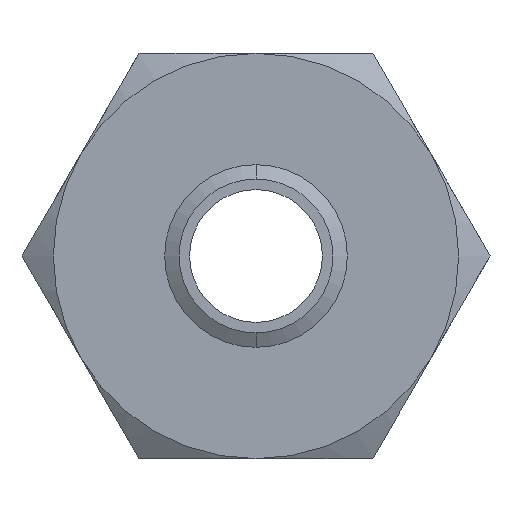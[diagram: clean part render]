
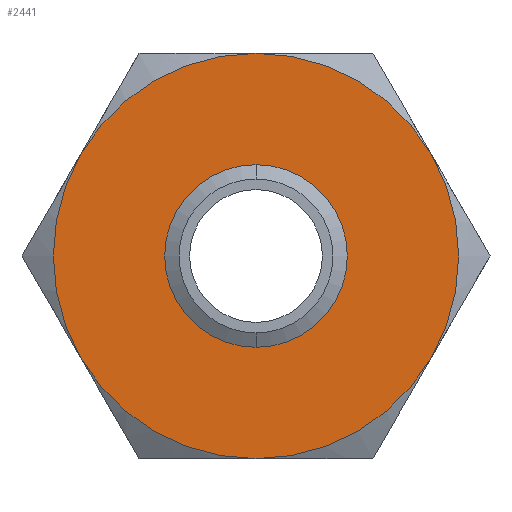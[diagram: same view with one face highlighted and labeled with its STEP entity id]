
A CAD part, front view. The second image highlights one B-rep face of the part: STEP entity #2441.
In plain terms, the highlighted planar face has unit normal (0, -1, 0).
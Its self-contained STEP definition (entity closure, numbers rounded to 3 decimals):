
#3 = EDGE_CURVE ( 'NONE', #2443, #2446, #1084, .T. ) ;
#596 = CARTESIAN_POINT ( 'NONE',  ( 0., 0., 0. ) ) ;
#597 = AXIS2_PLACEMENT_3D ( 'NONE', #596, #659, #658 ) ;
#598 = CIRCLE ( 'NONE', #597, 77.5 ) ;
#600 = CARTESIAN_POINT ( 'NONE',  ( 67.117, 0., 38.75 ) ) ;
#628 = CARTESIAN_POINT ( 'NONE',  ( 67.117, 0., -38.75 ) ) ;
#629 = DIRECTION ( 'NONE',  ( 0., 0., 1. ) ) ;
#630 = DIRECTION ( 'NONE',  ( 0., 1., 0. ) ) ;
#631 = CARTESIAN_POINT ( 'NONE',  ( 0., 0., 0. ) ) ;
#632 = AXIS2_PLACEMENT_3D ( 'NONE', #631, #630, #629 ) ;
#633 = CIRCLE ( 'NONE', #632, 77.5 ) ;
#634 = CARTESIAN_POINT ( 'NONE',  ( -67.117, 0., -38.75 ) ) ;
#639 = CARTESIAN_POINT ( 'NONE',  ( 0., 0., -77.5 ) ) ;
#640 = DIRECTION ( 'NONE',  ( 0., 0., 1. ) ) ;
#641 = DIRECTION ( 'NONE',  ( 0., 1., 0. ) ) ;
#642 = AXIS2_PLACEMENT_3D ( 'NONE', #647, #641, #640 ) ;
#643 = CIRCLE ( 'NONE', #642, 77.5 ) ;
#644 = DIRECTION ( 'NONE',  ( 0., 0., 1. ) ) ;
#645 = DIRECTION ( 'NONE',  ( 0., 1., 0. ) ) ;
#646 = CARTESIAN_POINT ( 'NONE',  ( 44.745, 0., -77.5 ) ) ;
#647 = CARTESIAN_POINT ( 'NONE',  ( 0., 0., 0. ) ) ;
#648 = AXIS2_PLACEMENT_3D ( 'NONE', #646, #645, #644 ) ;
#649 = PLANE ( 'NONE',  #648 ) ;
#650 = FACE_BOUND ( 'NONE', #2451, .T. ) ;
#651 = FACE_OUTER_BOUND ( 'NONE', #2440, .T. ) ;
#656 = CARTESIAN_POINT ( 'NONE',  ( 0., 0., 77.5 ) ) ;
#658 = DIRECTION ( 'NONE',  ( 0., 0., 1. ) ) ;
#659 = DIRECTION ( 'NONE',  ( 0., 1., 0. ) ) ;
#676 = DIRECTION ( 'NONE',  ( 0., 0., 1. ) ) ;
#677 = DIRECTION ( 'NONE',  ( 0., 1., 0. ) ) ;
#678 = CARTESIAN_POINT ( 'NONE',  ( 0., 0., 0. ) ) ;
#679 = AXIS2_PLACEMENT_3D ( 'NONE', #678, #677, #676 ) ;
#680 = CIRCLE ( 'NONE', #679, 77.5 ) ;
#681 = DIRECTION ( 'NONE',  ( 0., 0., 1. ) ) ;
#682 = DIRECTION ( 'NONE',  ( 0., 1., 0. ) ) ;
#683 = CARTESIAN_POINT ( 'NONE',  ( 0., 0., 0. ) ) ;
#684 = AXIS2_PLACEMENT_3D ( 'NONE', #683, #682, #681 ) ;
#685 = CIRCLE ( 'NONE', #684, 77.5 ) ;
#705 = DIRECTION ( 'NONE',  ( 0., 0., -1. ) ) ;
#706 = DIRECTION ( 'NONE',  ( 0., -1., 0. ) ) ;
#707 = CARTESIAN_POINT ( 'NONE',  ( 0., 0., 0. ) ) ;
#708 = AXIS2_PLACEMENT_3D ( 'NONE', #707, #706, #705 ) ;
#709 = CIRCLE ( 'NONE', #708, 29.426 ) ;
#1006 = EDGE_CURVE ( 'NONE', #1007, #1008, #1720, .T. ) ;
#1007 = VERTEX_POINT ( 'NONE', #1715 ) ;
#1008 = VERTEX_POINT ( 'NONE', #1714 ) ;
#1080 = DIRECTION ( 'NONE',  ( 0., 0., 1. ) ) ;
#1081 = DIRECTION ( 'NONE',  ( 0., 1., 0. ) ) ;
#1082 = CARTESIAN_POINT ( 'NONE',  ( 0., 0., 0. ) ) ;
#1083 = AXIS2_PLACEMENT_3D ( 'NONE', #1082, #1081, #1080 ) ;
#1084 = CIRCLE ( 'NONE', #1083, 77.5 ) ;
#1714 = CARTESIAN_POINT ( 'NONE',  ( 0., 0., 29.426 ) ) ;
#1715 = CARTESIAN_POINT ( 'NONE',  ( 0., 0., -29.426 ) ) ;
#1716 = DIRECTION ( 'NONE',  ( 0., 0., -1. ) ) ;
#1717 = DIRECTION ( 'NONE',  ( 0., -1., 0. ) ) ;
#1718 = CARTESIAN_POINT ( 'NONE',  ( 0., 0., 0. ) ) ;
#1719 = AXIS2_PLACEMENT_3D ( 'NONE', #1718, #1717, #1716 ) ;
#1720 = CIRCLE ( 'NONE', #1719, 29.426 ) ;
#1874 = CARTESIAN_POINT ( 'NONE',  ( -67.117, 0., 38.75 ) ) ;
#2069 = VERTEX_POINT ( 'NONE', #1874 ) ;
#2434 = VERTEX_POINT ( 'NONE', #600 ) ;
#2435 = EDGE_CURVE ( 'NONE', #2069, #2439, #598, .T. ) ;
#2437 = ORIENTED_EDGE ( 'NONE', *, *, #2435, .F. ) ;
#2438 = ORIENTED_EDGE ( 'NONE', *, *, #2442, .F. ) ;
#2439 = VERTEX_POINT ( 'NONE', #656 ) ;
#2440 = EDGE_LOOP ( 'NONE', ( #2438, #2437, #2447, #2482, #2460, #2456 ) ) ;
#2441 = ADVANCED_FACE ( 'NONE', ( #651, #650 ), #649, .F. ) ;
#2442 = EDGE_CURVE ( 'NONE', #2439, #2434, #643, .T. ) ;
#2443 = VERTEX_POINT ( 'NONE', #639 ) ;
#2446 = VERTEX_POINT ( 'NONE', #634 ) ;
#2447 = ORIENTED_EDGE ( 'NONE', *, *, #2448, .F. ) ;
#2448 = EDGE_CURVE ( 'NONE', #2446, #2069, #633, .T. ) ;
#2450 = VERTEX_POINT ( 'NONE', #628 ) ;
#2451 = EDGE_LOOP ( 'NONE', ( #2472, #2475 ) ) ;
#2455 = EDGE_CURVE ( 'NONE', #2434, #2450, #685, .T. ) ;
#2456 = ORIENTED_EDGE ( 'NONE', *, *, #2455, .F. ) ;
#2459 = EDGE_CURVE ( 'NONE', #2450, #2443, #680, .T. ) ;
#2460 = ORIENTED_EDGE ( 'NONE', *, *, #2459, .F. ) ;
#2472 = ORIENTED_EDGE ( 'NONE', *, *, #1006, .F. ) ;
#2474 = EDGE_CURVE ( 'NONE', #1008, #1007, #709, .T. ) ;
#2475 = ORIENTED_EDGE ( 'NONE', *, *, #2474, .F. ) ;
#2482 = ORIENTED_EDGE ( 'NONE', *, *, #3, .F. ) ;
